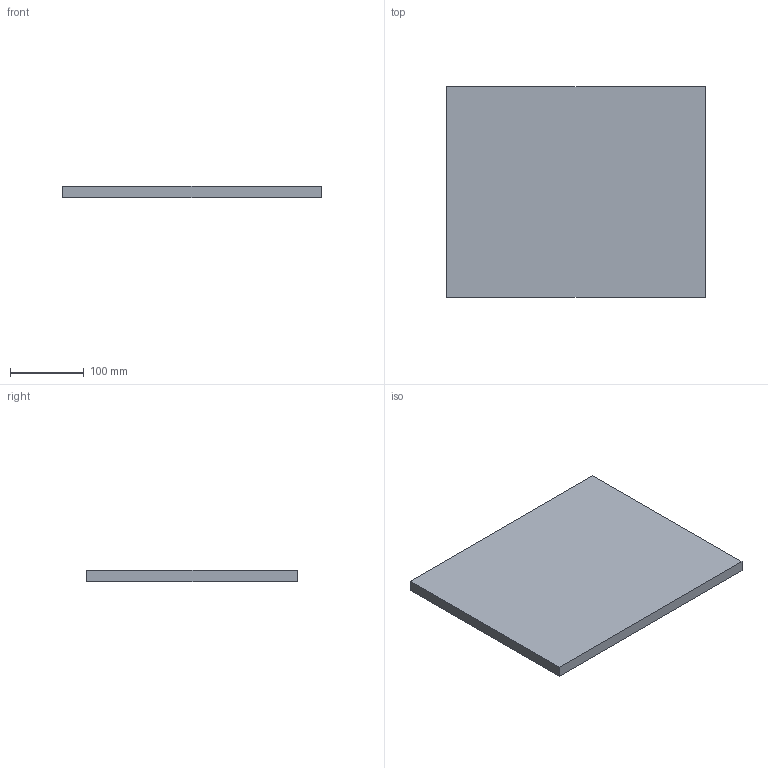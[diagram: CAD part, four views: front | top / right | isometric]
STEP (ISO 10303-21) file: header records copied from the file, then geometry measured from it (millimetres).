
FILE_DESCRIPTION (( 'STEP AP214' ), '1' );
FILE_NAME ('shelf_top.STEP', '2018-06-04T17:54:51', ( '' ), ( '' ), 'SwSTEP 2.0', 'SolidWorks 2017', '' );
FILE_SCHEMA (( 'AUTOMOTIVE_DESIGN' ));
Length unit declared in the file: millimetre
Products named in the file (1): shelf_top
Bounding box: 350 x 285 x 15 mm (x, y, z)
Volume: 1488667.6 mm3; surface area: 221494.6 mm2
Topology: 1 solids, 1 shells, 27 faces, 54 edges, 36 vertices
Faces by surface type: cylinder 14, plane 13
Entity records: 750 total; most frequent: DIRECTION 138, CARTESIAN_POINT 118, ORIENTED_EDGE 108, AXIS2_PLACEMENT_3D 56, EDGE_CURVE 54, VERTEX_POINT 36, EDGE_LOOP 34, CIRCLE 28
